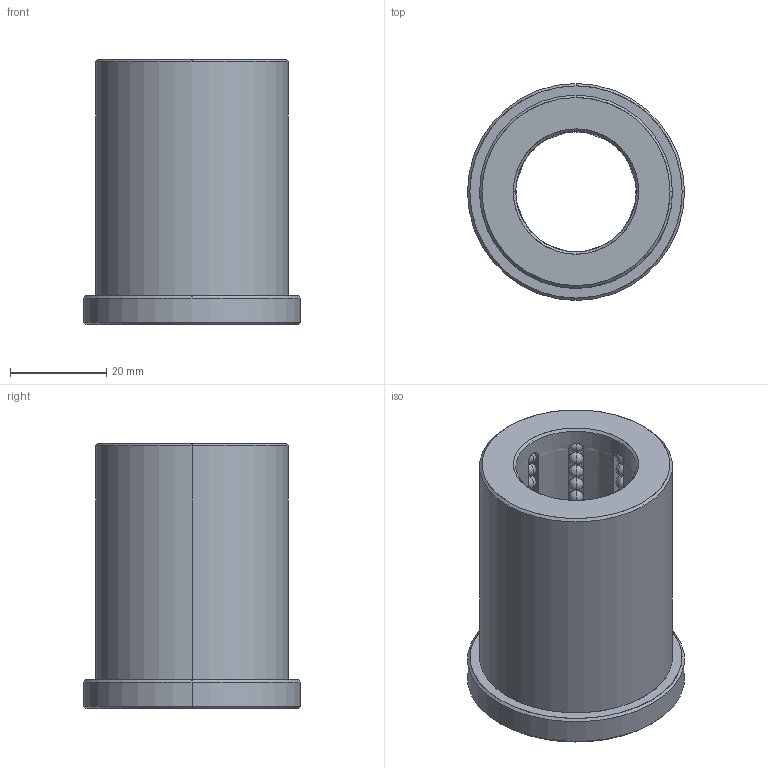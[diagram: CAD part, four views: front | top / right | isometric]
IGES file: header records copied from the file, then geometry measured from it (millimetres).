
Start section: START RECORD GO HERE.
Global section: file name: B8012555.igs; native system: DASSAULT SYSTEMES CATIA V5 R20 - www.3ds.com; preprocessor: CATIA Version 5 Release 20 ; author: Utente; organization: NB04-ASUS; date: 20200419.142952; units: millimetre
Bounding box: 45 x 45 x 55 mm (x, y, z)
Surface area: 19142.9 mm2 (no closed solid volume)
Topology: 0 solids, 0 shells, 549 faces, 2260 edges, 1300 vertices
Faces by surface type: revolution 522, plane 27
